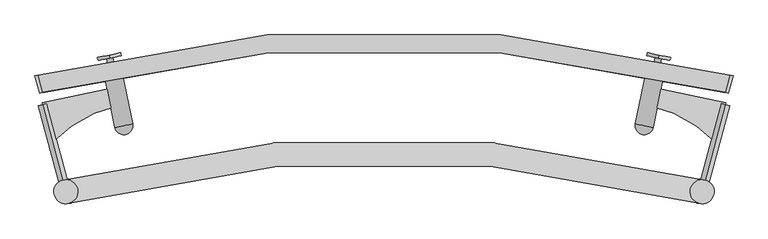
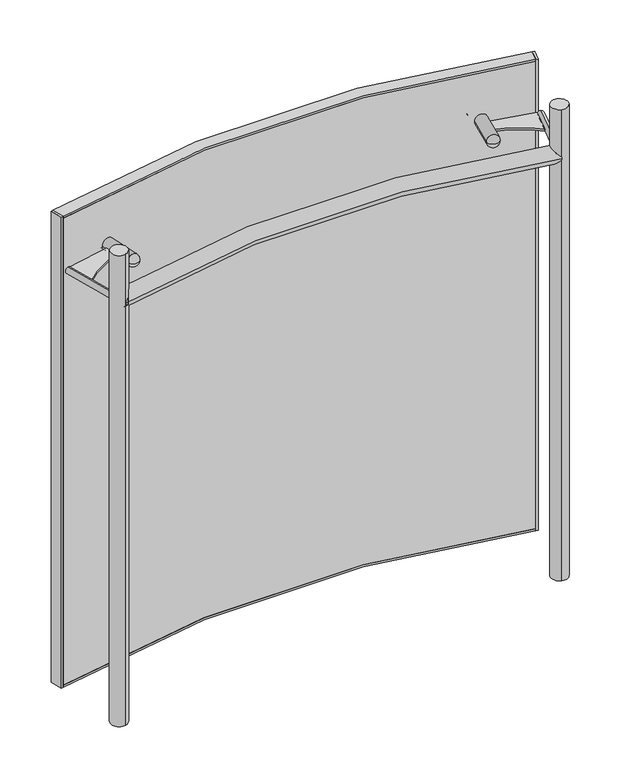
"""IFC4 building model written with IfcOpenShell, lengths in millimetres: plate geometry, CONVEX_SPIDER : CONVEX_SPIDER."""

import ifcopenshell
import ifcopenshell.guid

model = None  # the IFC model being written
_history = None  # IfcOwnerHistory: only IFC2X3 demands one
_inside = {}  # id of a spatial element -> (the spatial element, [elements in it])
_under = {}  # id of a project, library or spatial element -> (it, [spatial elements below it])
_declared = {}  # id of a project -> (the project, [libraries it declares])
_typed = {}  # id of a type object -> (the type object, [elements of that type])
_made_of = {}  # id of a material, layer set ... -> (it, [elements and type objects made of it])


def new_model(schema):
    """Start an empty IFC model of exactly this schema.

    Asked for "IFC4X3", IfcOpenShell would pick the latest addendum, in which some entities
    have other attributes; the version numbers below select the first issue.
    IFC2X3 requires an IfcOwnerHistory on every rooted entity: one is made here for all.
    """
    global model, _history
    if schema == "IFC4X3":
        model = ifcopenshell.file(schema_version=(4, 3, 0, 0))
    else:
        model = ifcopenshell.file(schema=schema)
    _inside.clear()
    _under.clear()
    _declared.clear()
    _typed.clear()
    _made_of.clear()
    _history = None
    if model.schema == "IFC2X3":
        org = make("IfcOrganization", Name="unknown")
        user = make(
            "IfcPersonAndOrganization",
            ThePerson=make("IfcPerson", FamilyName="unknown"),
            TheOrganization=org,
        )
        app = make(
            "IfcApplication",
            ApplicationDeveloper=org,
            Version="unknown",
            ApplicationFullName="unknown",
            ApplicationIdentifier="unknown",
        )
        _history = make(
            "IfcOwnerHistory",
            OwningUser=user,
            OwningApplication=app,
            ChangeAction="ADDED",
            CreationDate=0,
        )
    return model


def make(cls, **values):
    """One entity of the class cls with the attributes given. An attribute that is None is left unset."""
    return model.create_entity(
        cls, **{name: value for name, value in values.items() if value is not None}
    )


def rooted(cls, **values):
    """An entity with a GlobalId (a new one), such as an element, a storey or a relation."""
    return make(cls, GlobalId=ifcopenshell.guid.new(), OwnerHistory=_history, **values)


def si_unit(unit_type, name, prefix=None):
    """IfcSIUnit, for example si_unit("LENGTHUNIT", "METRE", prefix="MILLI")."""
    return make("IfcSIUnit", UnitType=unit_type, Prefix=prefix, Name=name)


def assignment(units):
    """IfcUnitAssignment: the units of a project."""
    return None if units is None else make("IfcUnitAssignment", Units=units)


def point(xyz):
    """IfcCartesianPoint."""
    return None if xyz is None else make("IfcCartesianPoint", Coordinates=xyz)


def direction(xyz):
    """IfcDirection."""
    return None if xyz is None else make("IfcDirection", DirectionRatios=xyz)


def frame(location, z_axis=None, x_axis=None):
    """IfcAxis2Placement3D, a coordinate frame: its origin and axes. An axis left out is left unset."""
    return make(
        "IfcAxis2Placement3D",
        Location=point(location),
        Axis=direction(z_axis),
        RefDirection=direction(x_axis),
    )


def frame_2d(location, x_axis=None):
    """IfcAxis2Placement2D, a coordinate frame in the plane: its origin and x axis."""
    return make(
        "IfcAxis2Placement2D", Location=point(location), RefDirection=direction(x_axis)
    )


def origin():
    """The frame at (0, 0, 0) with its axes left unset."""
    return frame((0.0, 0.0, 0.0))


def origin_with_axes():
    """The frame at (0, 0, 0) with the z axis (0, 0, 1) and the x axis (1, 0, 0) written out."""
    return frame((0.0, 0.0, 0.0), z_axis=(0.0, 0.0, 1.0), x_axis=(1.0, 0.0, 0.0))


def place(relative_to, where):
    """IfcLocalPlacement: puts the frame where relative to a parent placement (None: the world)."""
    return make(
        "IfcLocalPlacement", PlacementRelTo=relative_to, RelativePlacement=where
    )


def context(
    kind, dimensions, precision=None, world=None, true_north=None, identifier=None
):
    """IfcGeometricRepresentationContext, for example the 3D "Model" context."""
    return make(
        "IfcGeometricRepresentationContext",
        ContextIdentifier=identifier,
        ContextType=kind,
        CoordinateSpaceDimension=dimensions,
        Precision=precision,
        WorldCoordinateSystem=world,
        TrueNorth=true_north,
    )


def project(units=None, contexts=None):
    """IfcProject with its units and contexts."""
    return rooted(
        "IfcProject",
        Name="project",
        RepresentationContexts=contexts,
        UnitsInContext=assignment(units),
    )


def spatial(cls, under=None, at=None, **own):
    """A site, building, storey or space (cls), placed at a placement, below another one or the project."""
    s = rooted(cls, ObjectPlacement=at, **own)
    if under is not None:
        _under.setdefault(under.id(), (under, []))[1].append(s)
    return s


def polyline(points):
    """IfcPolyline through the points."""
    return make("IfcPolyline", Points=[point(p) for p in points])


def circle_curve(where, radius):
    """IfcCircle in the frame where."""
    return make("IfcCircle", Position=where, Radius=radius)


def ellipse_curve(where, semi_axis1, semi_axis2):
    """IfcEllipse in the frame where."""
    return make(
        "IfcEllipse", Position=where, SemiAxis1=semi_axis1, SemiAxis2=semi_axis2
    )


def trimmed(basis, trim1, trim2, sense, master):
    """IfcTrimmedCurve: the piece of a basis curve between two trims."""
    return make(
        "IfcTrimmedCurve",
        BasisCurve=basis,
        Trim1=trim1,
        Trim2=trim2,
        SenseAgreement=sense,
        MasterRepresentation=master,
    )


def segment(curve, same_sense, transition):
    """IfcCompositeCurveSegment."""
    return make(
        "IfcCompositeCurveSegment",
        Transition=transition,
        SameSense=same_sense,
        ParentCurve=curve,
    )


def composite_curve(segments, self_intersect=None):
    """IfcCompositeCurve: segments joined end to end."""
    return make("IfcCompositeCurve", Segments=segments, SelfIntersect=self_intersect)


def outline(outer, holes=None, kind="AREA"):
    """IfcArbitraryClosedProfileDef: a profile drawn as a closed curve; with holes, ...WithVoids."""
    if holes is None:
        return make("IfcArbitraryClosedProfileDef", ProfileType=kind, OuterCurve=outer)
    return make(
        "IfcArbitraryProfileDefWithVoids",
        ProfileType=kind,
        OuterCurve=outer,
        InnerCurves=holes,
    )


def extrude(swept, where, along, depth):
    """IfcExtrudedAreaSolid: the profile swept, set in the frame where, extruded along a direction by depth."""
    return make(
        "IfcExtrudedAreaSolid",
        SweptArea=swept,
        Position=where,
        ExtrudedDirection=direction(along),
        Depth=depth,
    )


def shape(context_of_items, identifier, shape_type, items):
    """IfcShapeRepresentation: the items that make up one representation, for example the "Body"."""
    return make(
        "IfcShapeRepresentation",
        ContextOfItems=context_of_items,
        RepresentationIdentifier=identifier,
        RepresentationType=shape_type,
        Items=items,
    )


def source(mapping_origin, context_of_items, identifier, shape_type, items):
    """IfcRepresentationMap: a shape defined once, which mapped items show again and again."""
    return make(
        "IfcRepresentationMap",
        MappingOrigin=mapping_origin,
        MappedRepresentation=shape(context_of_items, identifier, shape_type, items),
    )


def transform(
    local_origin,
    x_axis=None,
    y_axis=None,
    z_axis=None,
    scale=None,
    scale2=None,
    scale3=None,
    uniform=True,
):
    """IfcCartesianTransformationOperator3D, or its non-uniform kind. x_axis, y_axis, z_axis: its Axis1, 2, 3."""
    if uniform:
        return make(
            "IfcCartesianTransformationOperator3D",
            Axis1=direction(x_axis),
            Axis2=direction(y_axis),
            LocalOrigin=point(local_origin),
            Scale=scale,
            Axis3=direction(z_axis),
        )
    return make(
        "IfcCartesianTransformationOperator3DnonUniform",
        Axis1=direction(x_axis),
        Axis2=direction(y_axis),
        LocalOrigin=point(local_origin),
        Scale=scale,
        Axis3=direction(z_axis),
        Scale2=scale2,
        Scale3=scale3,
    )


def mapped(mapping_source, mapping_target):
    """IfcMappedItem: shows the shape of a source again, moved by a transform."""
    return make(
        "IfcMappedItem", MappingSource=mapping_source, MappingTarget=mapping_target
    )


def made_of(thing, what):
    """Note that an element or type object is made of a material, layer set ...; save() writes the relation."""
    if what is not None:
        _made_of.setdefault(what.id(), (what, []))[1].append(thing)
    return thing


def element(
    cls,
    number,
    at=None,
    inside=None,
    cuts=None,
    type_object=None,
    material=None,
    context=None,
    identifier="Body",
    shape_type=None,
    held_by="IfcProductDefinitionShape",
    body=None,
    shapes=None,
    **own,
):
    """One element of the class cls, such as IfcWall. Its Tag is "e" and its number.

    at: its placement. inside: the storey or other place that contains it. cuts: it is an
    opening in that element (IfcRelVoidsElement). A single representation is given by context,
    identifier, shape_type and body (its items); several are given by shapes. held_by: the class
    of the entity that holds the representations. save() writes the other relations.
    """
    e = rooted(cls, Tag="e%d" % number, ObjectPlacement=at, **own)
    if body is not None:
        shapes = [shape(context, identifier, shape_type, body)]
    if shapes is not None:
        e.Representation = make(held_by, Representations=shapes)
    if inside is not None:
        _inside.setdefault(inside.id(), (inside, []))[1].append(e)
    if cuts is not None:
        rooted(
            "IfcRelVoidsElement", RelatingBuildingElement=cuts, RelatedOpeningElement=e
        )
    if type_object is not None:
        _typed.setdefault(type_object.id(), (type_object, []))[1].append(e)
    return made_of(e, material)


def aggregate(whole, parts):
    """IfcRelAggregates: a whole, such as a stair, and the parts it consists of."""
    return rooted("IfcRelAggregates", RelatingObject=whole, RelatedObjects=parts)


def save(model, path):
    """Write the relations noted so far, then the file.

    IfcRelAggregates (storeys below a building ...), IfcRelContainedInSpatialStructure (elements
    in a storey), IfcRelDefinesByType, IfcRelAssociatesMaterial and IfcRelDeclares: one each for
    every whole, place, type object, material and project.
    """
    for whole, parts in _under.values():
        aggregate(whole, parts)
    for where, things in _inside.values():
        rooted(
            "IfcRelContainedInSpatialStructure",
            RelatedElements=things,
            RelatingStructure=where,
        )
    for kind, things in _typed.values():
        rooted("IfcRelDefinesByType", RelatedObjects=things, RelatingType=kind)
    for what, things in _made_of.values():
        rooted("IfcRelAssociatesMaterial", RelatedObjects=things, RelatingMaterial=what)
    for by, libraries in _declared.values():
        rooted("IfcRelDeclares", RelatingContext=by, RelatedDefinitions=libraries)
    model.write(path)


def plane_surface(at):
    """IfcPlane: the flat surface through the origin of the frame at, square to its z axis."""
    return make("IfcPlane", Position=at)


def cylinder_surface(at, radius):
    """IfcCylindricalSurface: all points at the distance radius from the z axis of the frame at."""
    return make("IfcCylindricalSurface", Position=at, Radius=radius)


def revolved_surface(curve, axis_point, axis_direction):
    """IfcSurfaceOfRevolution: the curve turned about the line through axis_point along axis_direction."""
    return make(
        "IfcSurfaceOfRevolution",
        SweptCurve=make("IfcArbitraryOpenProfileDef", ProfileType="CURVE", Curve=curve),
        AxisPosition=make("IfcAxis1Placement", Location=point(axis_point), Axis=direction(axis_direction)),
    )


def advanced_brep(points, edges, surfaces, faces):
    """IfcAdvancedBrep: a solid bounded by faces that lie on surfaces and meet in shared edges.

    An edge is (start, end): straight between two places in points (the first is 0);
    or (start, end, curve); or (start, end, curve, False) where it runs against its curve.
    A face is (place in surfaces, loops), or (place, loops, False) where it looks against
    its surface's normal. A loop lists edges by number (the first is 1), with a minus sign
    where the edge is run from its end to its start. The first loop is the outer one.
    """
    corners = [point(p) for p in points]
    vertices = [make("IfcVertexPoint", VertexGeometry=c) for c in corners]
    made = []
    for start, end, *more in edges:
        made.append(
            make(
                "IfcEdgeCurve",
                EdgeStart=vertices[start],
                EdgeEnd=vertices[end],
                EdgeGeometry=more[0] if more else make("IfcPolyline", Points=[corners[start], corners[end]]),
                SameSense=more[1] if len(more) > 1 else True,
            )
        )
    hull = []
    for where, loops, *sense in faces:
        bounds = []
        for j, loop in enumerate(loops):
            ring = [make("IfcOrientedEdge", EdgeElement=made[abs(k) - 1], Orientation=k > 0) for k in loop]
            bounds.append(
                make(
                    "IfcFaceOuterBound" if j == 0 else "IfcFaceBound",
                    Bound=make("IfcEdgeLoop", EdgeList=ring),
                    Orientation=True,
                )
            )
        hull.append(make("IfcAdvancedFace", Bounds=bounds, FaceSurface=surfaces[where], SameSense=sense[0] if sense else True))
    return make("IfcAdvancedBrep", Outer=make("IfcClosedShell", CfsFaces=hull))


def plate_973b4995(model_context):
    return source(origin(), model_context, "Body", "SolidModel", [
        extrude(outline(composite_curve([segment(polyline([(-447.179677, -19.2601446), (-441.0817723, -48.6338669)]), True, "CONTINUOUS"), segment(trimmed(circle_curve(frame_2d((-390.5270633, -271.4654216)), 228.4943772), [point((-441.0817723, -48.6338669))], [point((-555.3417421, -113.2067661))], True, "CARTESIAN"), True, "CONTINUOUS"), segment(polyline([(-555.3417421, -113.2067661), (-569.5701864, -44.6680808), (-447.179677, -19.2601446)]), True, "CONTINUOUS")], self_intersect=False)), frame((0.0, 0.0, 1072.5), z_axis=(0.0, 0.0, 1.0), x_axis=(1.0, 0.0, 0.0)), (0.0, 0.0, 1.0), 5.0),
        advanced_brep(
        [(-457.3428515, 29.6960591, 1075.0), (-462.2384719, 28.6797417, 1075.0), (-452.4472311, 30.7123766, 1075.0), (-436.5580857, 3.3712892, 1075.0), (-465.9318079, -2.7266155, 1075.0), (-448.6544113, -85.9521618, 1075.0), (-419.2806891, -79.8542571, 1075.0), (-446.3493264, 1.3386543, 1075.0), (-456.1405672, -0.6939806, 1075.0), (-430.9185978, -97.5900706, 1075.0)],
        [
            (0, 1),
            (1, 2, circle_curve(frame((-457.3428515, 29.6960591, 1075.0), z_axis=(-0.20326348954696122, 0.979124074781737, 0.0), x_axis=(-0.979124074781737, -0.20326348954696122, 0.0)), 5.0)),
            (2, 0),
            (2, 1, circle_curve(frame((-457.3428515, 29.6960591, 1075.0), z_axis=(-0.20326348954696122, 0.979124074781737, 0.0), x_axis=(-0.979124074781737, -0.20326348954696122, 0.0)), 5.0)),
            (3, 4, circle_curve(frame((-451.2449468, 0.3223369, 1075.0), z_axis=(0.20326348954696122, -0.979124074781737, 0.0), x_axis=(-0.979124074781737, -0.20326348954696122, 0.0)), 15.0)),
            (4, 5),
            (5, 6, circle_curve(frame((-433.9675502, -82.9032095, 1075.0), z_axis=(-0.20326348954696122, 0.979124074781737, 0.0), x_axis=(-0.979124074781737, -0.20326348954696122, 0.0)), 15.0)),
            (6, 3),
            (4, 3, circle_curve(frame((-451.2449468, 0.3223369, 1075.0), z_axis=(0.20326348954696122, -0.979124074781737, 0.0), x_axis=(-0.979124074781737, -0.20326348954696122, 0.0)), 15.0)),
            (6, 5, circle_curve(frame((-433.9675502, -82.9032095, 1075.0), z_axis=(-0.20326348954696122, 0.979124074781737, 0.0), x_axis=(-0.979124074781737, -0.20326348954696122, 0.0)), 15.0)),
            (7, 8, circle_curve(frame((-451.2449468, 0.3223369, 1075.0), z_axis=(0.20326348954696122, -0.979124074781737, 0.0), x_axis=(-0.979124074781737, -0.20326348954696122, 0.0)), 5.0)),
            (8, 4),
            (3, 7),
            (8, 7, circle_curve(frame((-451.2449468, 0.3223369, 1075.0), z_axis=(0.20326348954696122, -0.979124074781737, 0.0), x_axis=(-0.979124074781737, -0.20326348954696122, 0.0)), 5.0)),
            (1, 8),
            (7, 2),
            (5, 9, circle_curve(frame((-433.9675502, -82.9032095, 1075.0), z_axis=(0.0, 0.0, 1.0000000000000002), x_axis=(-0.979124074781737, -0.20326348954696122, 0.0)), 15.0)),
            (9, 6, circle_curve(frame((-433.9675502, -82.9032095, 1075.0), z_axis=(0.0, 0.0, 1.0000000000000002), x_axis=(0.979124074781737, 0.20326348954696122, 0.0)), 15.0)),
        ],
        [
            plane_surface(frame((-457.3428515, 29.6960591, 1075.0), z_axis=(-0.20326348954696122, 0.979124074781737, 0.0), x_axis=(-0.979124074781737, -0.20326348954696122, 0.0))),
            cylinder_surface(frame((-509.1750413, 279.3726982, 1075.0), z_axis=(-0.20326348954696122, 0.979124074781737, 0.0), x_axis=(-0.979124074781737, -0.20326348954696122, 0.0)), 15.0),
            plane_surface(frame((-451.2449468, 0.3223369, 1075.0), z_axis=(-0.20326348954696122, 0.979124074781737, 0.0), x_axis=(-0.979124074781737, -0.20326348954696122, 0.0))),
            cylinder_surface(frame((-509.1750413, 279.3726982, 1075.0), z_axis=(-0.20326348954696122, 0.979124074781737, 0.0), x_axis=(-0.979124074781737, -0.20326348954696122, 0.0)), 5.0),
            revolved_surface(trimmed(ellipse_curve(frame((-433.9675502, -82.9032095, 1075.0), z_axis=(0.0, 0.0, -1.0000000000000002), x_axis=(-0.979124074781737, -0.20326348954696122, 0.0)), 15.0, 15.0), [point((-430.9185978, -97.5900706, 1075.0))], [point((-448.6544113, -85.9521618, 1075.0))], True, "CARTESIAN"), (-509.1750413, 279.3726982, 1075.0), (-0.20326348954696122, 0.979124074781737, 0.0)),
        ],
        [
            (0, [[1, 2, 3]]),
            (0, [[-3, 4, -1]]),
            (1, [[5, 6, 7, 8]]),
            (1, [[9, -8, 10, -6]]),
            (2, [[11, 12, -5, 13]]),
            (2, [[14, -13, -9, -12]]),
            (3, [[-2, 15, -11, 16]]),
            (3, [[-4, -16, -14, -15]]),
            (4, [[-7, 17, 18]]),
            (4, [[-10, -18, -17]]),
        ],
    ),
        extrude(outline(composite_curve([segment(polyline([(447.179677, -19.2601446), (569.5701864, -44.6680808), (555.3417421, -113.2067661)]), True, "CONTINUOUS"), segment(trimmed(circle_curve(frame_2d((390.5270633, -271.4654216)), 228.4943772), [point((555.3417421, -113.2067661))], [point((441.0817723, -48.6338669))], True, "CARTESIAN"), True, "CONTINUOUS"), segment(polyline([(441.0817723, -48.6338669), (447.179677, -19.2601446)]), True, "CONTINUOUS")], self_intersect=False)), frame((0.0, 0.0, 1072.5), z_axis=(0.0, 0.0, 1.0), x_axis=(1.0, 0.0, 0.0)), (0.0, 0.0, 1.0), 5.0),
        advanced_brep(
        [(457.3428515, 29.6960591, 1075.0), (462.2384719, 28.6797417, 1075.0), (452.4472311, 30.7123766, 1075.0), (436.5580857, 3.3712892, 1075.0), (465.9318079, -2.7266155, 1075.0), (448.6544113, -85.9521618, 1075.0), (419.2806891, -79.8542571, 1075.0), (446.3493264, 1.3386543, 1075.0), (456.1405672, -0.6939806, 1075.0), (430.9185978, -97.5900706, 1075.0)],
        [
            (0, 1),
            (1, 2, circle_curve(frame((457.3428515, 29.6960591, 1075.0), z_axis=(0.2032634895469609, 0.979124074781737, 0.0), x_axis=(0.979124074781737, -0.2032634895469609, 0.0)), 5.0)),
            (2, 0),
            (2, 1, circle_curve(frame((457.3428515, 29.6960591, 1075.0), z_axis=(0.2032634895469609, 0.979124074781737, 0.0), x_axis=(0.979124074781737, -0.2032634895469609, 0.0)), 5.0)),
            (3, 4, circle_curve(frame((451.2449468, 0.3223369, 1075.0), z_axis=(-0.2032634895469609, -0.979124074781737, 0.0), x_axis=(0.979124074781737, -0.2032634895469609, 0.0)), 15.0)),
            (4, 5),
            (5, 6, circle_curve(frame((433.9675502, -82.9032095, 1075.0), z_axis=(0.2032634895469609, 0.979124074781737, 0.0), x_axis=(0.979124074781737, -0.2032634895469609, 0.0)), 15.0)),
            (6, 3),
            (4, 3, circle_curve(frame((451.2449468, 0.3223369, 1075.0), z_axis=(-0.2032634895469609, -0.979124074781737, 0.0), x_axis=(0.979124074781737, -0.2032634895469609, 0.0)), 15.0)),
            (6, 5, circle_curve(frame((433.9675502, -82.9032095, 1075.0), z_axis=(0.2032634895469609, 0.979124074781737, 0.0), x_axis=(0.979124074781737, -0.2032634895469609, 0.0)), 15.0)),
            (7, 8, circle_curve(frame((451.2449468, 0.3223369, 1075.0), z_axis=(-0.2032634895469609, -0.979124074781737, 0.0), x_axis=(0.979124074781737, -0.2032634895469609, 0.0)), 5.0)),
            (8, 4),
            (3, 7),
            (8, 7, circle_curve(frame((451.2449468, 0.3223369, 1075.0), z_axis=(-0.2032634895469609, -0.979124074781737, 0.0), x_axis=(0.979124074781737, -0.2032634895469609, 0.0)), 5.0)),
            (1, 8),
            (7, 2),
            (5, 9, circle_curve(frame((433.9675502, -82.9032095, 1075.0), z_axis=(0.0, 0.0, -1.0), x_axis=(0.979124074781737, -0.2032634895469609, 0.0)), 15.0)),
            (9, 6, circle_curve(frame((433.9675502, -82.9032095, 1075.0), z_axis=(0.0, 0.0, -1.0), x_axis=(-0.979124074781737, 0.2032634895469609, 0.0)), 15.0)),
        ],
        [
            plane_surface(frame((457.3428515, 29.6960591, 1075.0), z_axis=(0.2032634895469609, 0.979124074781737, 0.0), x_axis=(0.979124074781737, -0.2032634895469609, 0.0))),
            cylinder_surface(frame((509.1750413, 279.3726982, 1075.0), z_axis=(0.2032634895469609, 0.979124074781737, 0.0), x_axis=(0.979124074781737, -0.2032634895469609, 0.0)), 15.0),
            plane_surface(frame((451.2449468, 0.3223369, 1075.0), z_axis=(0.2032634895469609, 0.979124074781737, 0.0), x_axis=(0.979124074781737, -0.2032634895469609, 0.0))),
            cylinder_surface(frame((509.1750413, 279.3726982, 1075.0), z_axis=(0.2032634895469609, 0.979124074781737, 0.0), x_axis=(0.979124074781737, -0.2032634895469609, 0.0)), 5.0),
            revolved_surface(trimmed(ellipse_curve(frame((433.9675502, -82.9032095, 1075.0), z_axis=(0.0, 0.0, 1.0), x_axis=(0.979124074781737, -0.2032634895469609, 0.0)), 15.0, 15.0), [point((430.9185978, -97.5900706, 1075.0))], [point((448.6544113, -85.9521618, 1075.0))], True, "CARTESIAN"), (509.1750413, 279.3726982, 1075.0), (0.2032634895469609, 0.979124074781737, 0.0)),
        ],
        [
            (0, [[1, 2, 3]]),
            (0, [[-3, 4, -1]]),
            (1, [[5, 6, 7, 8]]),
            (1, [[9, -8, 10, -6]]),
            (2, [[11, 12, -5, 13]]),
            (2, [[14, -13, -9, -12]]),
            (3, [[-2, 15, -11, 16]]),
            (3, [[-4, -16, -14, -15]]),
            (4, [[-7, 17, 18]]),
            (4, [[-10, -18, -17]]),
        ],
    ),
        extrude(outline(composite_curve([segment(trimmed(circle_curve(frame_2d((0.0, -20.0)), 20.0), [point((0.0, -40.0))], [point((0.0, 0.0))], False, "CARTESIAN"), True, "CONTINUOUS"), segment(trimmed(circle_curve(frame_2d((0.0, -20.0)), 20.0), [point((0.0, 0.0))], [point((0.0, -40.0))], False, "CARTESIAN"), True, "CONTINUOUS")], self_intersect=False)), frame((-457.3428515, 29.6960591, 1095.0), z_axis=(-0.20326348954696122, 0.979124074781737, 0.0), x_axis=(-0.979124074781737, -0.20326348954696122, 0.0)), (0.0, 0.0, 1.0), 5.0),
        extrude(outline(composite_curve([segment(trimmed(circle_curve(frame_2d((0.0, -20.0)), 20.0), [point((0.0, -40.0))], [point((0.0, 0.0))], False, "CARTESIAN"), True, "CONTINUOUS"), segment(trimmed(circle_curve(frame_2d((0.0, -20.0)), 20.0), [point((0.0, 0.0))], [point((0.0, -40.0))], False, "CARTESIAN"), True, "CONTINUOUS")], self_intersect=False)), frame((457.3428515, 29.6960591, 1095.0), z_axis=(0.20326348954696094, 0.9791240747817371, 0.0), x_axis=(-0.9791240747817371, 0.20326348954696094, 0.0)), (0.0, 0.0, 1.0), 5.0),
        extrude(outline(composite_curve([segment(trimmed(circle_curve(frame_2d((0.0, -7.5)), 7.5), [point((0.0, -15.0))], [point((0.0, 0.0))], False, "CARTESIAN"), True, "CONTINUOUS"), segment(trimmed(circle_curve(frame_2d((0.0, -7.5)), 7.5), [point((0.0, 0.0))], [point((0.0, -15.0))], False, "CARTESIAN"), True, "CONTINUOUS")], self_intersect=False)), frame((530.5392996, -193.1745162, 1082.5), z_axis=(0.2588190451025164, 0.9659258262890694, 0.0), x_axis=(-0.9659258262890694, 0.2588190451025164, 0.0)), (0.0, 0.0, 1.0), 150.0),
        extrude(outline(composite_curve([segment(trimmed(circle_curve(frame_2d((0.0, -7.5)), 7.5), [point((0.0, -15.0))], [point((0.0, 0.0))], False, "CARTESIAN"), True, "CONTINUOUS"), segment(trimmed(circle_curve(frame_2d((0.0, -7.5)), 7.5), [point((0.0, 0.0))], [point((0.0, -15.0))], False, "CARTESIAN"), True, "CONTINUOUS")], self_intersect=False)), frame((-530.5790425, -193.1851653, 1082.5), z_axis=(-0.2588190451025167, 0.9659258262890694, 0.0), x_axis=(-0.9659258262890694, -0.2588190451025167, 0.0)), (0.0, 0.0, 1.0), 150.0),
        advanced_brep(
        [(525.4026616, -212.5036818, 1075.0), (535.7554234, -173.8666487, 1075.0), (-525.4026616, -212.5036818, 1075.0), (-535.7554234, -173.8666487, 1075.0)],
        [
            (0, 1, circle_curve(frame((530.5790425, -193.1851653, 1075.0), z_axis=(0.9659258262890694, -0.25881904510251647, 0.0), x_axis=(0.25881904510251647, 0.9659258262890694, 0.0)), 20.0)),
            (1, 0, circle_curve(frame((530.5790425, -193.1851653, 1075.0), z_axis=(0.9659258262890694, -0.25881904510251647, 0.0), x_axis=(0.25881904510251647, 0.9659258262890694, 0.0)), 20.0)),
            (2, 3, circle_curve(frame((-530.5790425, -193.1851653, 1075.0), z_axis=(-0.9659258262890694, -0.25881904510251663, 0.0), x_axis=(-0.25881904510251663, 0.9659258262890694, 0.0)), 20.0)),
            (3, 2, circle_curve(frame((-530.5790425, -193.1851653, 1075.0), z_axis=(-0.9659258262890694, -0.25881904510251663, 0.0), x_axis=(-0.25881904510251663, 0.9659258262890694, 0.0)), 20.0)),
            (3, 1, circle_curve(frame((0.0, -2173.3331092, 1075.0), z_axis=(0.0, 0.0, -1.0), x_axis=(0.25881904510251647, 0.9659258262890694, 0.0)), 2070.0)),
            (0, 2, circle_curve(frame((0.0, -2173.3331092, 1075.0), z_axis=(0.0, 0.0, 1.0), x_axis=(0.25881904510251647, 0.9659258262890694, 0.0)), 2030.0)),
        ],
        [
            plane_surface(frame((0.0, -2173.3331092, 1422.466352), z_axis=(0.9659258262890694, -0.25881904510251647, 0.0), x_axis=(0.25881904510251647, 0.9659258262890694, 0.0))),
            plane_surface(frame((0.0, -2173.3331092, 1422.466352), z_axis=(-0.9659258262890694, -0.2588190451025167, 0.0), x_axis=(-0.2588190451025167, 0.9659258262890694, 0.0))),
            revolved_surface(trimmed(ellipse_curve(frame((530.5790425, -193.1851653, 1075.0), z_axis=(0.9659258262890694, -0.25881904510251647, 0.0), x_axis=(0.25881904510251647, 0.9659258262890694, 0.0)), 20.0, 20.0), [point((525.4026616, -212.5036818, 1075.0))], [point((535.7554234, -173.8666487, 1075.0))], True, "CARTESIAN"), (0.0, -2173.3331092, 1422.466352), (0.0, 0.0, 1.0)),
            revolved_surface(trimmed(ellipse_curve(frame((530.5790425, -193.1851653, 1075.0), z_axis=(0.9659258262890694, -0.25881904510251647, 0.0), x_axis=(0.25881904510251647, 0.9659258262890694, 0.0)), 20.0, 20.0), [point((535.7554234, -173.8666487, 1075.0))], [point((525.4026616, -212.5036818, 1075.0))], True, "CARTESIAN"), (0.0, -2173.3331092, 1422.466352), (0.0, 0.0, 1.0)),
        ],
        [
            (0, [[1, 2]]),
            (1, [[3, 4]]),
            (2, [[5, -1, 6, -4]]),
            (3, [[-6, -2, -5, -3]]),
        ],
    ),
        extrude(outline(polyline([(582.1754441, 0.0506012), (574.4775394, -28.9449548), (569.6449468, -27.6619707), (577.3428515, 1.3335853), (582.1754441, 0.0506012)])), origin_with_axes(), (0.0, 0.0, 1.0), 1200.0),
        extrude(outline(polyline([(-574.4775394, -28.9449548), (-582.1754441, 0.0506012), (-577.3428515, 1.3335853), (-569.6449468, -27.6619707), (-574.4775394, -28.9449548)])), origin_with_axes(), (0.0, 0.0, 1.0), 1200.0),
        extrude(outline(composite_curve([segment(polyline([(577.3428515, 1.3335853), (569.6449468, -27.6619707)]), True, "CONTINUOUS"), segment(trimmed(circle_curve(frame_2d((0.0, -2173.3331092)), 2220.0), [point((569.6449468, -27.6619707))], [point((-569.6449468, -27.6619707))], True, "CARTESIAN"), True, "CONTINUOUS"), segment(polyline([(-569.6449468, -27.6619707), (-577.3428515, 1.3335853)]), True, "CONTINUOUS"), segment(trimmed(circle_curve(frame_2d((0.0, -2173.3331092)), 2250.0), [point((-577.3428515, 1.3335853))], [point((577.3428515, 1.3335853))], False, "CARTESIAN"), True, "CONTINUOUS")], self_intersect=False)), origin_with_axes(), (0.0, 0.0, 1.0), 5.0),
        extrude(outline(composite_curve([segment(trimmed(circle_curve(frame_2d((0.0, -2173.3331092)), 2220.0), [point((569.6449468, -27.6619707))], [point((-569.6449468, -27.6619707))], True, "CARTESIAN"), True, "CONTINUOUS"), segment(polyline([(-569.6449468, -27.6619707), (-577.3428515, 1.3335853)]), True, "CONTINUOUS"), segment(trimmed(circle_curve(frame_2d((0.0, -2173.3331092)), 2250.0), [point((-577.3428515, 1.3335853))], [point((577.3428515, 1.3335853))], False, "CARTESIAN"), True, "CONTINUOUS"), segment(polyline([(577.3428515, 1.3335853), (569.6449468, -27.6619707)]), True, "CONTINUOUS")], self_intersect=False)), frame((0.0, 0.0, 1195.0), z_axis=(0.0, 0.0, 1.0), x_axis=(1.0, 0.0, 0.0)), (0.0, 0.0, 1.0), 5.0),
        extrude(outline(composite_curve([segment(trimmed(circle_curve(frame_2d((530.5790425, -193.1851653)), 20.0), [point((525.4026616, -212.5036818))], [point((535.7554234, -173.8666487))], False, "CARTESIAN"), True, "CONTINUOUS"), segment(trimmed(circle_curve(frame_2d((530.5790425, -193.1851653)), 20.0), [point((535.7554234, -173.8666487))], [point((525.4026616, -212.5036818))], False, "CARTESIAN"), True, "CONTINUOUS")], self_intersect=False)), origin_with_axes(), (0.0, 0.0, 1.0), 1200.0),
        extrude(outline(composite_curve([segment(trimmed(circle_curve(frame_2d((-530.5790425, -193.1851653)), 20.0), [point((-525.4026616, -212.5036818))], [point((-535.7554234, -173.8666487))], False, "CARTESIAN"), True, "CONTINUOUS"), segment(trimmed(circle_curve(frame_2d((-530.5790425, -193.1851653)), 20.0), [point((-535.7554234, -173.8666487))], [point((-525.4026616, -212.5036818))], False, "CARTESIAN"), True, "CONTINUOUS")], self_intersect=False)), origin_with_axes(), (0.0, 0.0, 1.0), 1200.0),
        extrude(outline(composite_curve([segment(trimmed(circle_curve(frame_2d((0.0, -2173.3331092)), 2250.0), [point((-577.3428515, 1.3335853))], [point((577.3428515, 1.3335853))], False, "CARTESIAN"), True, "CONTINUOUS"), segment(polyline([(577.3428515, 1.3335853), (569.6449468, -27.6619707)]), True, "CONTINUOUS"), segment(trimmed(circle_curve(frame_2d((0.0, -2173.3331092)), 2220.0), [point((569.6449468, -27.6619707))], [point((-569.6449468, -27.6619707))], True, "CARTESIAN"), True, "CONTINUOUS"), segment(polyline([(-569.6449468, -27.6619707), (-577.3428515, 1.3335853)]), True, "CONTINUOUS")], self_intersect=False)), frame((0.0, 0.0, 5.0), z_axis=(0.0, 0.0, 1.0), x_axis=(1.0, 0.0, 0.0)), (0.0, 0.0, 1.0), 1190.0),
    ])


if __name__ == "__main__":
    model = new_model("IFC4")
    model_context = context("Model", 3, world=origin())
    ifc_project = project(units=[si_unit("LENGTHUNIT", "METRE", prefix="MILLI")], contexts=[model_context])
    site = spatial("IfcSite", under=ifc_project)
    building = spatial("IfcBuilding", under=site)
    placement = place(None, origin())
    plate_shape = plate_973b4995(model_context)
    element("IfcPlate", 1, ObjectType="CONVEX_SPIDER : CONVEX_SPIDER", at=placement, inside=building, context=model_context, shape_type="MappedRepresentation", body=[
        mapped(plate_shape, transform((0.0, 0.0, 0.0), x_axis=(1.0, 0.0, 0.0), y_axis=(0.0, 1.0, 0.0), z_axis=(0.0, 0.0, 1.0))),
    ])
    save(model, "model.ifc")
